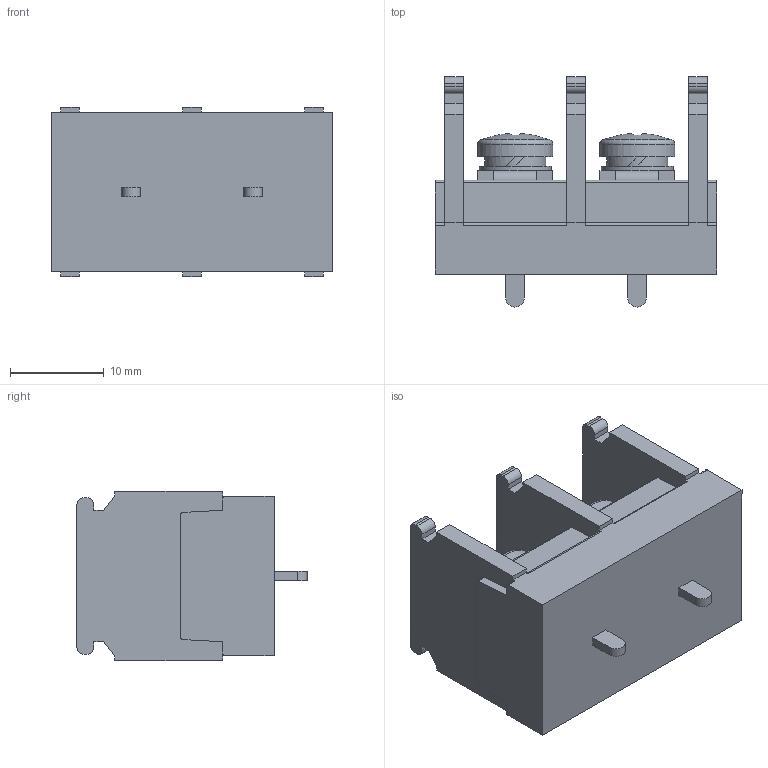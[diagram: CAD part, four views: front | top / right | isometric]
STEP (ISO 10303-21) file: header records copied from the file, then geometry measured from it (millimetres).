
FILE_DESCRIPTION(/* description */ ('Alibre Inc.'),/* implementation_level */ '2;1');
FILE_NAME(/* name */ 'export0',/* time_stamp */ '2016-08-02T19:05:32+09:00',/* author */ (''),/* organization */ (''),/* preprocessor_version */ 'ST-DEVELOPER v14',/* originating_system */ 'Alibre',/* authorisation */ '');
FILE_SCHEMA (('CONFIG_CONTROL_DESIGN'));
Length unit declared in the file: centimetre
Products named in the file (1): ID_1
Bounding box: 30 x 24.5 x 18 mm (x, y, z)
Volume: 6338.7 mm3; surface area: 3738.5 mm2
Topology: 1 solids, 19 shells, 584 faces, 1538 edges, 1020 vertices
Faces by surface type: plane 422, bspline 104, cylinder 44, cone 10, sphere 2, torus 2
Full cylindrical faces by diameter (mm): 4 x2, 6.5 x2, 7.7 x2, 8 x2
Entity records: 17375 total; most frequent: CARTESIAN_POINT 4079, ORIENTED_EDGE 3044, DIRECTION 1942, EDGE_CURVE 1522, VECTOR 1138, LINE 1138, VERTEX_POINT 1014, EDGE_LOOP 634
